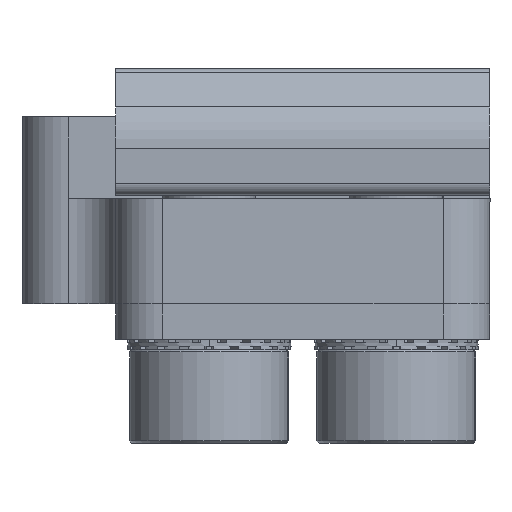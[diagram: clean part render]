
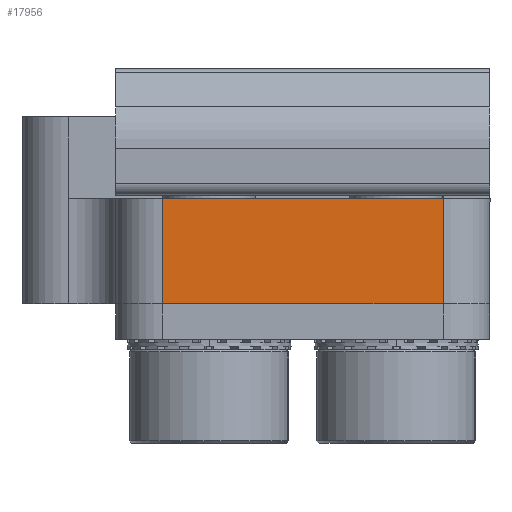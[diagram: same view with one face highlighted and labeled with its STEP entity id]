
A CAD part, front view. The second image highlights one B-rep face of the part: STEP entity #17956.
In plain terms, the highlighted planar face has unit normal (0, -1, 0).
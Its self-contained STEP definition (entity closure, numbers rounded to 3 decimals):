
#158 = VECTOR ( 'NONE', #29755, 1000. ) ;
#387 = LINE ( 'NONE', #5792, #27002 ) ;
#600 = EDGE_CURVE ( 'NONE', #7760, #15133, #387, .T. ) ;
#1075 = CARTESIAN_POINT ( 'NONE',  ( -49.52, -19.407, 20.259 ) ) ;
#1307 = LINE ( 'NONE', #7703, #13443 ) ;
#2067 = CARTESIAN_POINT ( 'NONE',  ( -47.52, -19.407, 15.759 ) ) ;
#2108 = EDGE_LOOP ( 'NONE', ( #16732, #10943, #9859, #14509 ) ) ;
#2178 = DIRECTION ( 'NONE',  ( 1., 0., 0. ) ) ;
#2581 = PLANE ( 'NONE',  #28105 ) ;
#2888 = CARTESIAN_POINT ( 'NONE',  ( 0., -19.407, 0. ) ) ;
#3458 = DIRECTION ( 'NONE',  ( -1., 0., 0. ) ) ;
#4311 = LINE ( 'NONE', #4937, #158 ) ;
#4937 = CARTESIAN_POINT ( 'NONE',  ( -61.52, -19.407, 0. ) ) ;
#5792 = CARTESIAN_POINT ( 'NONE',  ( -49.52, -19.407, 20.259 ) ) ;
#7703 = CARTESIAN_POINT ( 'NONE',  ( -63.52, -19.407, 20.259 ) ) ;
#7760 = VERTEX_POINT ( 'NONE', #10459 ) ;
#9768 = DIRECTION ( 'NONE',  ( -1., 0., 0. ) ) ;
#9859 = ORIENTED_EDGE ( 'NONE', *, *, #16025, .T. ) ;
#9866 = DIRECTION ( 'NONE',  ( 0., 1., 0. ) ) ;
#10171 = EDGE_CURVE ( 'NONE', #26080, #12027, #4311, .T. ) ;
#10459 = CARTESIAN_POINT ( 'NONE',  ( -49.52, -19.407, 15.759 ) ) ;
#10505 = CARTESIAN_POINT ( 'NONE',  ( -61.52, -19.407, 20.259 ) ) ;
#10943 = ORIENTED_EDGE ( 'NONE', *, *, #10171, .T. ) ;
#11756 = EDGE_CURVE ( 'NONE', #15133, #26080, #1307, .T. ) ;
#12027 = VERTEX_POINT ( 'NONE', #14584 ) ;
#13443 = VECTOR ( 'NONE', #3458, 1000. ) ;
#13696 = VECTOR ( 'NONE', #2178, 1000. ) ;
#14509 = ORIENTED_EDGE ( 'NONE', *, *, #600, .T. ) ;
#14584 = CARTESIAN_POINT ( 'NONE',  ( -61.52, -19.407, 15.759 ) ) ;
#15133 = VERTEX_POINT ( 'NONE', #1075 ) ;
#15579 = DIRECTION ( 'NONE',  ( 0., 0., 1. ) ) ;
#15701 = FACE_OUTER_BOUND ( 'NONE', #2108, .T. ) ;
#16025 = EDGE_CURVE ( 'NONE', #12027, #7760, #22852, .T. ) ;
#16732 = ORIENTED_EDGE ( 'NONE', *, *, #11756, .T. ) ;
#17956 = ADVANCED_FACE ( 'NONE', ( #15701 ), #2581, .F. ) ;
#22852 = LINE ( 'NONE', #2067, #13696 ) ;
#26080 = VERTEX_POINT ( 'NONE', #10505 ) ;
#27002 = VECTOR ( 'NONE', #15579, 1000. ) ;
#28105 = AXIS2_PLACEMENT_3D ( 'NONE', #2888, #9866, #9768 ) ;
#29755 = DIRECTION ( 'NONE',  ( 0., 0., -1. ) ) ;
